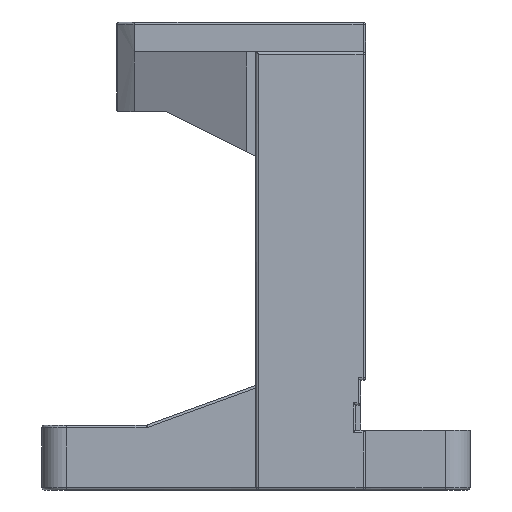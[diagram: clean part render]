
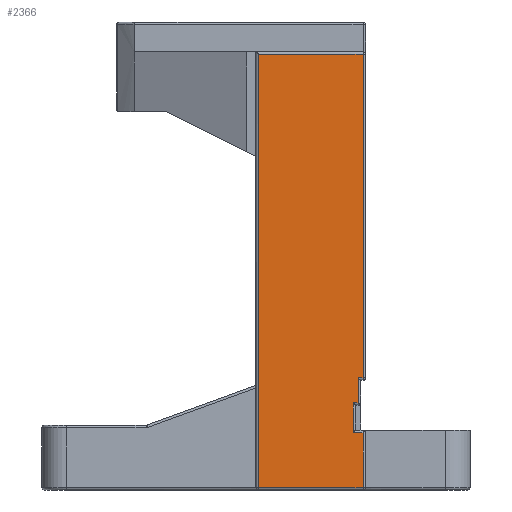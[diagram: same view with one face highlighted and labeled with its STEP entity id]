
A CAD part, left-side view. The second image highlights one B-rep face of the part: STEP entity #2366.
In plain terms, the highlighted planar face has unit normal (-1, 0, 0).
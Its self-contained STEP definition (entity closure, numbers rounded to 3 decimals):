
#88 = VERTEX_POINT ( 'NONE', #3907 ) ;
#313 = EDGE_CURVE ( 'NONE', #5061, #7267, #6316, .T. ) ;
#381 = VECTOR ( 'NONE', #6369, 1000. ) ;
#519 = VERTEX_POINT ( 'NONE', #5171 ) ;
#774 = DIRECTION ( 'NONE',  ( 1., 0., 0. ) ) ;
#812 = CARTESIAN_POINT ( 'NONE',  ( -44., -22., -6. ) ) ;
#834 = CARTESIAN_POINT ( 'NONE',  ( -44., 0., 81. ) ) ;
#893 = VERTEX_POINT ( 'NONE', #6662 ) ;
#904 = CARTESIAN_POINT ( 'NONE',  ( -44., -21.5, 81.5 ) ) ;
#960 = EDGE_CURVE ( 'NONE', #88, #1093, #2789, .T. ) ;
#967 = DIRECTION ( 'NONE',  ( 0., 1., 0. ) ) ;
#996 = LINE ( 'NONE', #1010, #1167 ) ;
#1010 = CARTESIAN_POINT ( 'NONE',  ( -44., -0.5, 81.5 ) ) ;
#1023 = VECTOR ( 'NONE', #6513, 1000. ) ;
#1071 = ORIENTED_EDGE ( 'NONE', *, *, #2043, .T. ) ;
#1093 = VERTEX_POINT ( 'NONE', #3935 ) ;
#1167 = VECTOR ( 'NONE', #4455, 1000. ) ;
#1175 = LINE ( 'NONE', #1857, #7021 ) ;
#1414 = EDGE_LOOP ( 'NONE', ( #5552, #4377, #6026, #3036, #3879, #2129, #5686, #6384, #3932, #1071 ) ) ;
#1600 = DIRECTION ( 'NONE',  ( 0., -1., 0. ) ) ;
#1726 = CARTESIAN_POINT ( 'NONE',  ( -44., -19.5, 10.5 ) ) ;
#1760 = DIRECTION ( 'NONE',  ( 0., 0., 1. ) ) ;
#1857 = CARTESIAN_POINT ( 'NONE',  ( -44., -22., 11. ) ) ;
#1912 = CARTESIAN_POINT ( 'NONE',  ( -44., -20.5, 11. ) ) ;
#2043 = EDGE_CURVE ( 'NONE', #6473, #2889, #6240, .T. ) ;
#2129 = ORIENTED_EDGE ( 'NONE', *, *, #3288, .T. ) ;
#2161 = EDGE_CURVE ( 'NONE', #1093, #519, #996, .T. ) ;
#2366 = ADVANCED_FACE ( 'NONE', ( #4419 ), #4210, .F. ) ;
#2374 = CARTESIAN_POINT ( 'NONE',  ( -44., -19.5, 5. ) ) ;
#2559 = EDGE_CURVE ( 'NONE', #893, #6473, #1175, .T. ) ;
#2789 = LINE ( 'NONE', #834, #7128 ) ;
#2855 = DIRECTION ( 'NONE',  ( 0., 0., 1. ) ) ;
#2889 = VERTEX_POINT ( 'NONE', #3676 ) ;
#2963 = CARTESIAN_POINT ( 'NONE',  ( -44., -20.5, 81.5 ) ) ;
#3036 = ORIENTED_EDGE ( 'NONE', *, *, #2161, .T. ) ;
#3205 = CARTESIAN_POINT ( 'NONE',  ( -44., -21.5, 5. ) ) ;
#3288 = EDGE_CURVE ( 'NONE', #6491, #5061, #4490, .T. ) ;
#3589 = DIRECTION ( 'NONE',  ( 0., -1., 0. ) ) ;
#3676 = CARTESIAN_POINT ( 'NONE',  ( -44., -20.5, 16. ) ) ;
#3704 = LINE ( 'NONE', #1726, #5032 ) ;
#3840 = EDGE_CURVE ( 'NONE', #5685, #88, #4934, .T. ) ;
#3879 = ORIENTED_EDGE ( 'NONE', *, *, #6591, .T. ) ;
#3907 = CARTESIAN_POINT ( 'NONE',  ( -44., -21.5, 81. ) ) ;
#3932 = ORIENTED_EDGE ( 'NONE', *, *, #2559, .T. ) ;
#3935 = CARTESIAN_POINT ( 'NONE',  ( -44., -0.5, 81. ) ) ;
#4210 = PLANE ( 'NONE',  #4602 ) ;
#4334 = DIRECTION ( 'NONE',  ( 0., 0., 1. ) ) ;
#4377 = ORIENTED_EDGE ( 'NONE', *, *, #3840, .T. ) ;
#4419 = FACE_OUTER_BOUND ( 'NONE', #1414, .T. ) ;
#4455 = DIRECTION ( 'NONE',  ( 0., 0., -1. ) ) ;
#4490 = LINE ( 'NONE', #6275, #6756 ) ;
#4517 = VECTOR ( 'NONE', #1600, 1000. ) ;
#4602 = AXIS2_PLACEMENT_3D ( 'NONE', #6456, #774, #4795 ) ;
#4795 = DIRECTION ( 'NONE',  ( 0., -1., 0. ) ) ;
#4840 = VECTOR ( 'NONE', #967, 1000. ) ;
#4934 = LINE ( 'NONE', #904, #6409 ) ;
#5014 = CARTESIAN_POINT ( 'NONE',  ( -44., -22., 16. ) ) ;
#5032 = VECTOR ( 'NONE', #2855, 1000. ) ;
#5061 = VERTEX_POINT ( 'NONE', #3205 ) ;
#5132 = EDGE_CURVE ( 'NONE', #7267, #893, #3704, .T. ) ;
#5171 = CARTESIAN_POINT ( 'NONE',  ( -44., -0.5, -6. ) ) ;
#5395 = DIRECTION ( 'NONE',  ( 0., 1., 0. ) ) ;
#5552 = ORIENTED_EDGE ( 'NONE', *, *, #6742, .T. ) ;
#5685 = VERTEX_POINT ( 'NONE', #6675 ) ;
#5686 = ORIENTED_EDGE ( 'NONE', *, *, #313, .T. ) ;
#5816 = LINE ( 'NONE', #5014, #4517 ) ;
#5916 = CARTESIAN_POINT ( 'NONE',  ( -44., -21.5, -6. ) ) ;
#6026 = ORIENTED_EDGE ( 'NONE', *, *, #960, .T. ) ;
#6097 = CARTESIAN_POINT ( 'NONE',  ( -44., -22., 5. ) ) ;
#6240 = LINE ( 'NONE', #2963, #381 ) ;
#6272 = LINE ( 'NONE', #812, #1023 ) ;
#6275 = CARTESIAN_POINT ( 'NONE',  ( -44., -21.5, 5.5 ) ) ;
#6316 = LINE ( 'NONE', #6097, #4840 ) ;
#6369 = DIRECTION ( 'NONE',  ( 0., 0., 1. ) ) ;
#6384 = ORIENTED_EDGE ( 'NONE', *, *, #5132, .T. ) ;
#6409 = VECTOR ( 'NONE', #4334, 1000. ) ;
#6456 = CARTESIAN_POINT ( 'NONE',  ( -44., -22., 81.5 ) ) ;
#6473 = VERTEX_POINT ( 'NONE', #1912 ) ;
#6491 = VERTEX_POINT ( 'NONE', #5916 ) ;
#6513 = DIRECTION ( 'NONE',  ( 0., -1., 0. ) ) ;
#6591 = EDGE_CURVE ( 'NONE', #519, #6491, #6272, .T. ) ;
#6662 = CARTESIAN_POINT ( 'NONE',  ( -44., -19.5, 11. ) ) ;
#6675 = CARTESIAN_POINT ( 'NONE',  ( -44., -21.5, 16. ) ) ;
#6742 = EDGE_CURVE ( 'NONE', #2889, #5685, #5816, .T. ) ;
#6756 = VECTOR ( 'NONE', #1760, 1000. ) ;
#7021 = VECTOR ( 'NONE', #3589, 1000. ) ;
#7128 = VECTOR ( 'NONE', #5395, 1000. ) ;
#7267 = VERTEX_POINT ( 'NONE', #2374 ) ;
